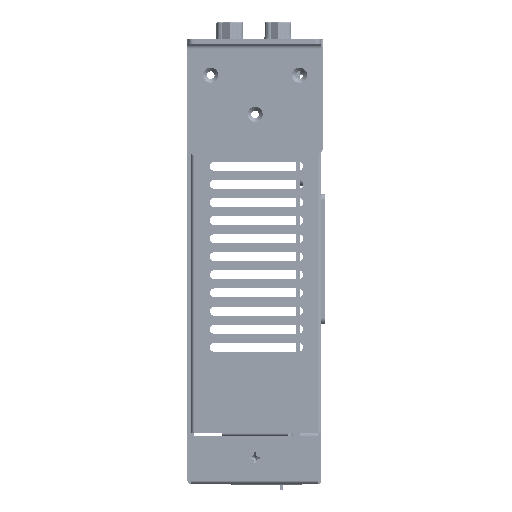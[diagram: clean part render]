
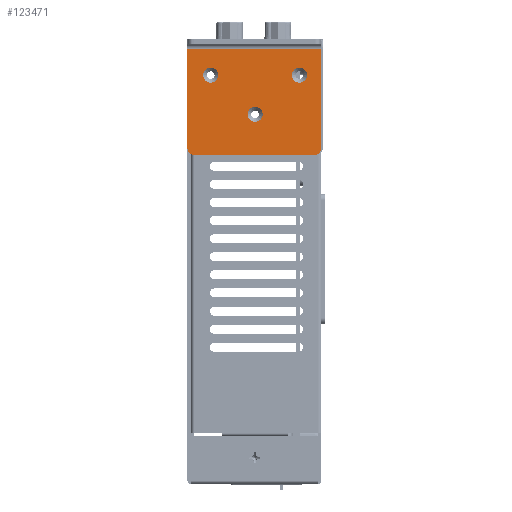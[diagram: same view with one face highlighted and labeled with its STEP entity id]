
A CAD part, left-side view. The second image highlights one B-rep face of the part: STEP entity #123471.
In plain terms, the highlighted planar face has unit normal (-1, 0, 0).
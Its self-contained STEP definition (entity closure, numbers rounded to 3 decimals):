
#2067=FACE_BOUND('',#14551,.T.);
#2068=FACE_BOUND('',#14552,.T.);
#2069=FACE_BOUND('',#14553,.T.);
#3446=CIRCLE('',#131719,2.5);
#3449=CIRCLE('',#131724,2.5);
#3452=CIRCLE('',#131729,2.5);
#3455=CIRCLE('',#131734,2.);
#3458=CIRCLE('',#131740,2.);
#7634=FACE_OUTER_BOUND('',#14550,.T.);
#14550=EDGE_LOOP('',(#81697,#81698,#81699,#81700,#81701,#81702));
#14551=EDGE_LOOP('',(#81703));
#14552=EDGE_LOOP('',(#81704));
#14553=EDGE_LOOP('',(#81705));
#22595=LINE('',#176738,#36723);
#22601=LINE('',#176755,#36729);
#22617=LINE('',#176801,#36745);
#22618=LINE('',#176804,#36746);
#36723=VECTOR('',#142095,10.);
#36729=VECTOR('',#142111,10.);
#36745=VECTOR('',#142163,10.);
#36746=VECTOR('',#142168,10.);
#50841=VERTEX_POINT('',#176695);
#50844=VERTEX_POINT('',#176705);
#50847=VERTEX_POINT('',#176715);
#50850=VERTEX_POINT('',#176725);
#50851=VERTEX_POINT('',#176726);
#50855=VERTEX_POINT('',#176736);
#50859=VERTEX_POINT('',#176748);
#50860=VERTEX_POINT('',#176749);
#50861=VERTEX_POINT('',#176754);
#63062=EDGE_CURVE('',#50841,#50841,#3446,.T.);
#63067=EDGE_CURVE('',#50844,#50844,#3449,.T.);
#63072=EDGE_CURVE('',#50847,#50847,#3452,.T.);
#63077=EDGE_CURVE('',#50850,#50851,#3455,.T.);
#63083=EDGE_CURVE('',#50850,#50855,#22595,.T.);
#63088=EDGE_CURVE('',#50859,#50860,#3458,.T.);
#63091=EDGE_CURVE('',#50861,#50860,#22601,.T.);
#63115=EDGE_CURVE('',#50855,#50861,#22617,.T.);
#63116=EDGE_CURVE('',#50859,#50851,#22618,.T.);
#81697=ORIENTED_EDGE('',*,*,#63077,.F.);
#81698=ORIENTED_EDGE('',*,*,#63083,.T.);
#81699=ORIENTED_EDGE('',*,*,#63115,.T.);
#81700=ORIENTED_EDGE('',*,*,#63091,.T.);
#81701=ORIENTED_EDGE('',*,*,#63088,.F.);
#81702=ORIENTED_EDGE('',*,*,#63116,.T.);
#81703=ORIENTED_EDGE('',*,*,#63062,.T.);
#81704=ORIENTED_EDGE('',*,*,#63067,.T.);
#81705=ORIENTED_EDGE('',*,*,#63072,.T.);
#118583=PLANE('',#131762);
#123471=ADVANCED_FACE('',(#7634,#2067,#2068,#2069),#118583,.T.);
#131719=AXIS2_PLACEMENT_3D('',#176696,#142049,#142050);
#131724=AXIS2_PLACEMENT_3D('',#176706,#142061,#142062);
#131729=AXIS2_PLACEMENT_3D('',#176716,#142073,#142074);
#131734=AXIS2_PLACEMENT_3D('',#176727,#142085,#142086);
#131740=AXIS2_PLACEMENT_3D('',#176750,#142105,#142106);
#131762=AXIS2_PLACEMENT_3D('',#176805,#142169,#142170);
#142049=DIRECTION('center_axis',(1.,0.,0.));
#142050=DIRECTION('ref_axis',(0.,-1.,0.));
#142061=DIRECTION('center_axis',(1.,0.,0.));
#142062=DIRECTION('ref_axis',(0.,-1.,0.));
#142073=DIRECTION('center_axis',(1.,0.,0.));
#142074=DIRECTION('ref_axis',(0.,-1.,0.));
#142085=DIRECTION('center_axis',(1.,0.,0.));
#142086=DIRECTION('ref_axis',(0.,-0.707,-0.707));
#142095=DIRECTION('',(0.,0.,1.));
#142105=DIRECTION('center_axis',(1.,0.,0.));
#142106=DIRECTION('ref_axis',(0.,0.707,-0.707));
#142111=DIRECTION('',(0.,0.,-1.));
#142163=DIRECTION('',(0.,1.,0.));
#142168=DIRECTION('',(0.,-1.,0.));
#142169=DIRECTION('center_axis',(-1.,0.,0.));
#142170=DIRECTION('ref_axis',(0.,0.,1.));
#176695=CARTESIAN_POINT('',(-214.85,32.2,-8.9));
#176696=CARTESIAN_POINT('Origin',(-214.85,29.7,-8.9));
#176705=CARTESIAN_POINT('',(-214.85,17.5,-21.9));
#176706=CARTESIAN_POINT('Origin',(-214.85,15.,-21.9));
#176715=CARTESIAN_POINT('',(-214.85,2.8,-8.9));
#176716=CARTESIAN_POINT('Origin',(-214.85,0.3,-8.9));
#176725=CARTESIAN_POINT('',(-214.85,-6.8,-33.3));
#176726=CARTESIAN_POINT('',(-214.85,-4.8,-35.3));
#176727=CARTESIAN_POINT('Origin',(-214.85,-4.8,-33.3));
#176736=CARTESIAN_POINT('',(-214.85,-6.8,-0.2));
#176738=CARTESIAN_POINT('',(-214.85,-6.8,3.1));
#176748=CARTESIAN_POINT('',(-214.85,35.4,-35.3));
#176749=CARTESIAN_POINT('',(-214.85,37.4,-33.3));
#176750=CARTESIAN_POINT('Origin',(-214.85,35.4,-33.3));
#176754=CARTESIAN_POINT('',(-214.85,37.4,-0.2));
#176755=CARTESIAN_POINT('',(-214.85,37.4,-35.3));
#176801=CARTESIAN_POINT('',(-214.85,4.25,-0.2));
#176804=CARTESIAN_POINT('',(-214.85,-6.8,-35.3));
#176805=CARTESIAN_POINT('Origin',(-214.85,15.3,-16.1));
